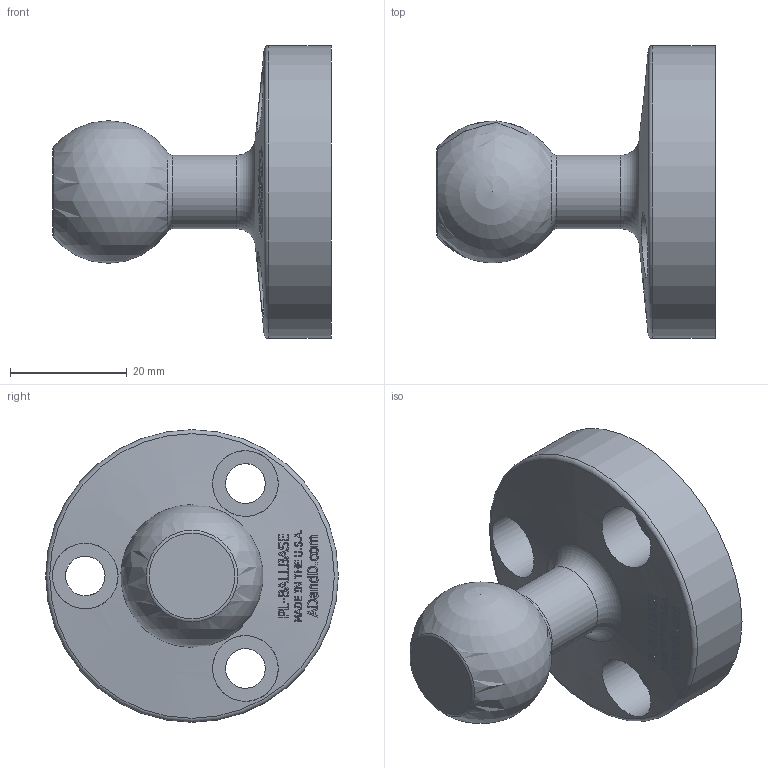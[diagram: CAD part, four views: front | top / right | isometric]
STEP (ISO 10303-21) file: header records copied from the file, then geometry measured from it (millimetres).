
FILE_DESCRIPTION(/* description */ ('STANDARD SERIES BALL BASE '),/* implementation_level */ '2;1');
FILE_NAME(/* name */ 'C:\Users\Doug Biddinger\Desktop\ADandD Website 3-28-18\PL\PL-BALLBASE.stp',/* time_stamp */ '2018-03-28T15:56:09-04:00',/* author */ ('Doug Biddinger'),/* organization */ (''),/* preprocessor_version */ 'ST-DEVELOPER v16.13',/* originating_system */ 'Autodesk Inventor 2018',/* authorisation */ '');
FILE_SCHEMA (('AUTOMOTIVE_DESIGN { 1 0 10303 214 3 1 1 }'));
Length unit declared in the file: inch
Products named in the file (1): 60104
Bounding box: 47.62 x 50.04 x 50.04 mm (x, y, z)
Volume: 30387.3 mm3; surface area: 8676.9 mm2
Topology: 1 solids, 1 shells, 515 faces, 1378 edges, 919 vertices
Faces by surface type: plane 285, bspline 164, cone 53, cylinder 8, torus 4, sphere 1
Full cylindrical faces by diameter (mm): 6.782 x3, 11.227 x3, 12.611 x1, 50.038 x1
Entity records: 19713 total; most frequent: CARTESIAN_POINT 8632, ORIENTED_EDGE 2706, DIRECTION 1600, EDGE_CURVE 1353, VERTEX_POINT 909, LINE 636, VECTOR 636, EDGE_LOOP 590
